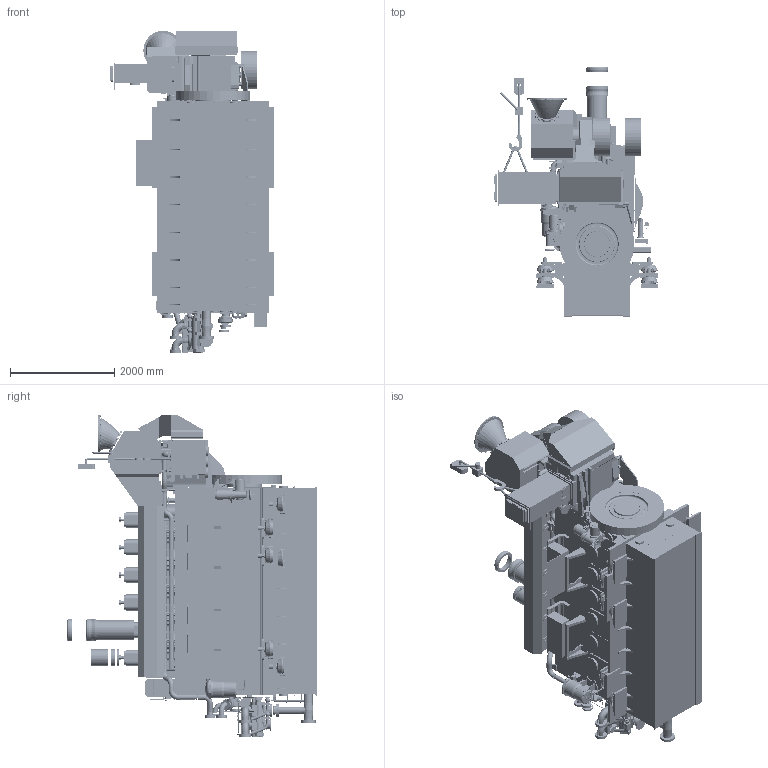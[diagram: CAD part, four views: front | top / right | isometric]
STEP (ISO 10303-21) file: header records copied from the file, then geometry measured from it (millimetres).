
FILE_DESCRIPTION((''),'2;1');
FILE_NAME('6M32E_FWS_STP_ASM','2015-11-16T',('petera8'),('Caterpillar Motoren GmbH & Co.KG'),'PRO/ENGINEER BY PARAMETRIC TECHNOLOGY CORPORATION, 2014200','PRO/ENGINEER BY PARAMETRIC TECHNOLOGY CORPORATION, 2014200','');
FILE_SCHEMA(('CONFIG_CONTROL_DESIGN'));
Products named in the file (7): 6M32E_FWS_STP_ENGINE_P01; 6M32E_FWS_STP_WET_SUMP_P01; 6M32E_FWS_STP_WET_SU_ELA_P01; 6M32E_FWS_STP_DRY_SUMP_P01; 6M32E_FWS_STP_RESI_MOUNT_P01; 6M32E_FWS_STP_REMOV_SPAC_P01; 6M32E_FWS_STP_ASM
Assembly tree (6 placements, depth 2):
  6M32E_FWS_STP_ASM
    6M32E_FWS_STP_ENGINE_P01
    6M32E_FWS_STP_WET_SUMP_P01
    6M32E_FWS_STP_WET_SU_ELA_P01
    6M32E_FWS_STP_DRY_SUMP_P01
    6M32E_FWS_STP_RESI_MOUNT_P01
    6M32E_FWS_STP_REMOV_SPAC_P01
Bounding box: 3150 x 4797 x 6207 mm (x, y, z)
Surface area: 207861278.8 mm2 (no closed solid volume)
Topology: 0 solids, 500 shells, 5441 faces, 20555 edges, 15160 vertices
Faces by surface type: plane 2923, cylinder 2000, cone 185, torus 145, bspline 71, extrusion 62, sphere 29, revolution 26
Entity records: 275525 total; most frequent: CARTESIAN_POINT 87353, DIRECTION 36745, ORIENTED_EDGE 31293, EDGE_CURVE 20503, VERTEX_POINT 15160, AXIS2_PLACEMENT_3D 12294, VECTOR 12131, LINE 12069
